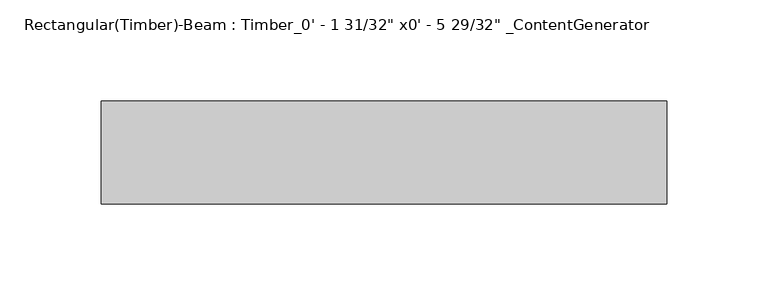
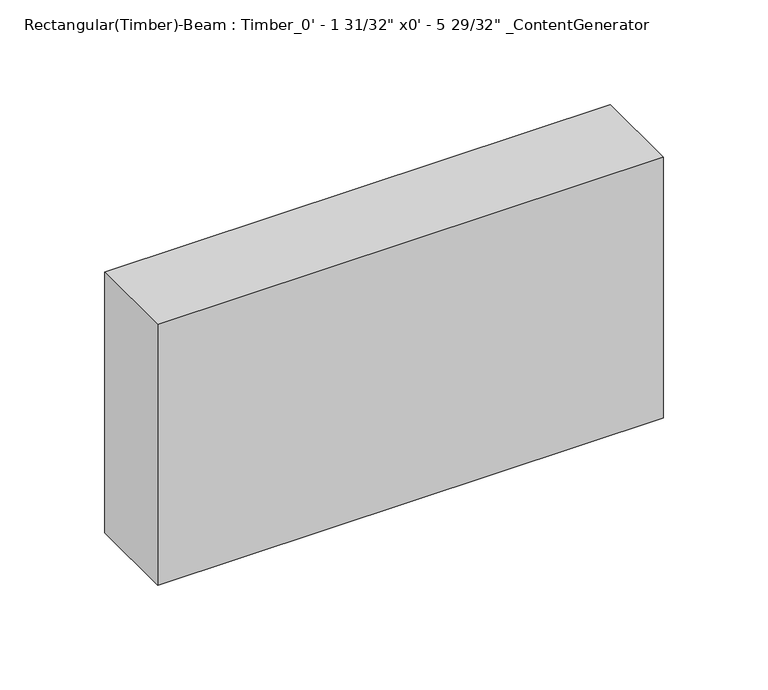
"""IFC4 building model written with IfcOpenShell, lengths in millimetres: beam geometry."""

from ifc_helpers import new_model, si_unit, frame, origin, place, context, project, spatial, polyline, outline, extrude, source, transform, mapped, element, save


def beam_8c0c2621(model_context):
    return source(origin(), model_context, "Body", "SweptSolid", [
        extrude(outline(polyline([(127.0, 25.4), (127.0, -25.4), (-152.38, -25.4), (-152.38, 25.4), (127.0, 25.4)])), frame((0.0, 0.0, -76.2), z_axis=(0.0, 0.0, 1.0), x_axis=(1.0, 0.0, 0.0)), (0.0, 0.0, 1.0), 152.4),
    ])


if __name__ == "__main__":
    model = new_model("IFC4")
    model_context = context("Model", 3, world=origin())
    ifc_project = project(units=[si_unit("LENGTHUNIT", "METRE", prefix="MILLI")], contexts=[model_context])
    site = spatial("IfcSite", under=ifc_project)
    building = spatial("IfcBuilding", under=site)
    placement = place(None, origin())
    beam_shape = beam_8c0c2621(model_context)
    element("IfcBeam", 1, ObjectType="Rectangular(Timber)-Beam : Timber_0' - 1 31/32\" x0' - 5 29/32\" _ContentGenerator", at=placement, inside=building, context=model_context, shape_type="MappedRepresentation", body=[
        mapped(beam_shape, transform((0.0, 0.0, 0.0), x_axis=(1.0, 0.0, 0.0), y_axis=(0.0, 1.0, 0.0), z_axis=(0.0, 0.0, 1.0))),
    ])
    save(model, "model.ifc")
